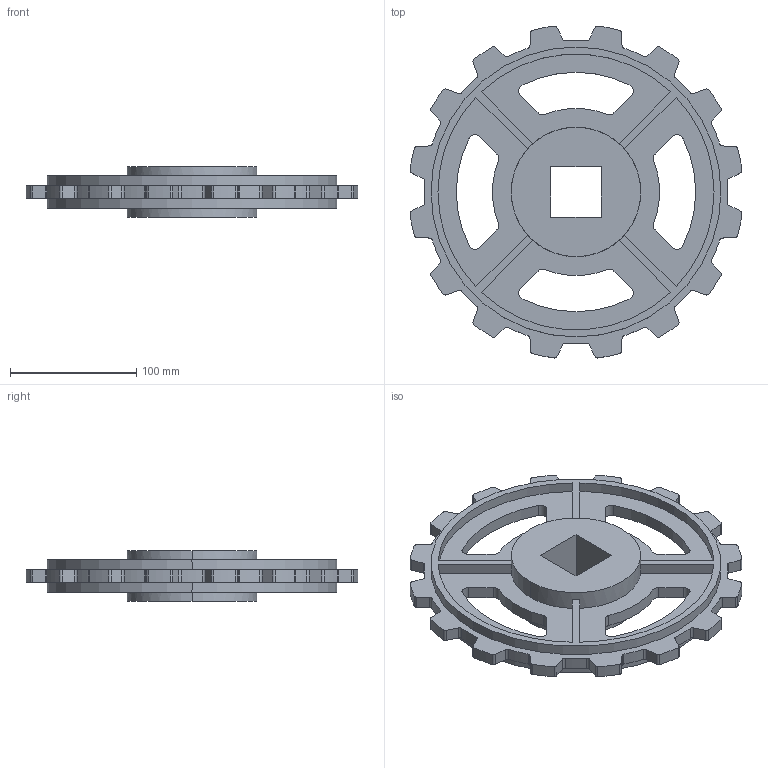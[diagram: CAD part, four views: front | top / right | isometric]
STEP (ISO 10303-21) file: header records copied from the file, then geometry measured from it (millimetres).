
FILE_DESCRIPTION(('CATIA V5 STEP Exchange'),'2;1');
FILE_NAME('C:\Users\ALI OZGUN\Desktop\alhan\TESLIMEDILEN3\382G40Z16.stp','2017-09-21T11:51:04+00:00',('none'),('none'),'CATIA Version 5 Release 21 GA (IN-10)','CATIA V5 STEP AP203','none');
FILE_SCHEMA(('CONFIG_CONTROL_DESIGN'));
Length unit declared in the file: millimetre
Products named in the file (1): 382G40Z16
Bounding box: 262.81 x 262.81 x 40 mm (x, y, z)
Volume: 669589.9 mm3; surface area: 143791.7 mm2
Topology: 1 solids, 1 shells, 222 faces, 640 edges, 424 vertices
Faces by surface type: cylinder 140, plane 82
Entity records: 6912 total; most frequent: ORIENTED_EDGE 1280, CARTESIAN_POINT 1233, DIRECTION 976, EDGE_CURVE 640, AXIS2_PLACEMENT_3D 457, VERTEX_POINT 424, VECTOR 352, LINE 352
